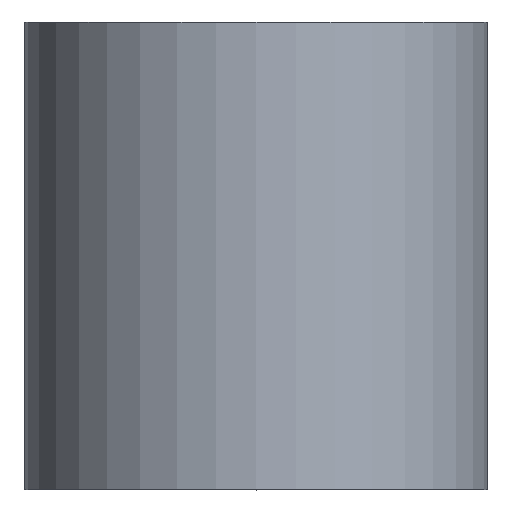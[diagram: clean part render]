
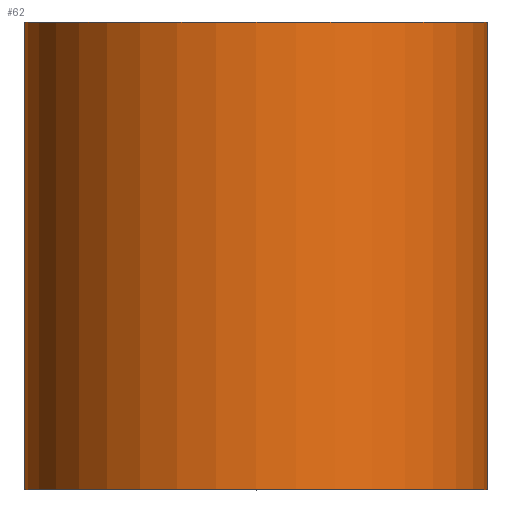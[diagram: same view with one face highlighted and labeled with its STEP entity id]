
A CAD part, top view. The second image highlights one B-rep face of the part: STEP entity #62.
In plain terms, the highlighted cylindrical face has radius 12.7 mm (diameter 25.4 mm), a full revolution.
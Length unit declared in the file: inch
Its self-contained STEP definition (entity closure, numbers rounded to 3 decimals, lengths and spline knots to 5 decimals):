
#20=FACE_OUTER_BOUND('',#24,.T.);
#24=EDGE_LOOP('',(#51,#52,#53,#54));
#30=LINE('',#118,#32);
#32=VECTOR('',#100,0.5);
#35=CIRCLE('',#83,0.5);
#36=CIRCLE('',#84,0.5);
#39=VERTEX_POINT('',#115);
#40=VERTEX_POINT('',#117);
#44=EDGE_CURVE('',#39,#39,#35,.T.);
#45=EDGE_CURVE('',#39,#40,#30,.T.);
#46=EDGE_CURVE('',#40,#40,#36,.T.);
#51=ORIENTED_EDGE('',*,*,#44,.F.);
#52=ORIENTED_EDGE('',*,*,#45,.T.);
#53=ORIENTED_EDGE('',*,*,#46,.T.);
#54=ORIENTED_EDGE('',*,*,#45,.F.);
#60=CYLINDRICAL_SURFACE('',#82,0.5);
#62=ADVANCED_FACE('',(#20),#60,.T.);
#82=AXIS2_PLACEMENT_3D('',#114,#96,#97);
#83=AXIS2_PLACEMENT_3D('',#116,#98,#99);
#84=AXIS2_PLACEMENT_3D('',#119,#101,#102);
#96=DIRECTION('center_axis',(0.,1.,0.));
#97=DIRECTION('ref_axis',(1.,0.,0.));
#98=DIRECTION('center_axis',(0.,1.,0.));
#99=DIRECTION('ref_axis',(1.,0.,0.));
#100=DIRECTION('',(0.,-1.,0.));
#101=DIRECTION('center_axis',(0.,1.,0.));
#102=DIRECTION('ref_axis',(1.,0.,0.));
#114=CARTESIAN_POINT('Origin',(0.,0.,0.));
#115=CARTESIAN_POINT('',(-0.5,1.01,0.));
#116=CARTESIAN_POINT('Origin',(0.,1.01,0.));
#117=CARTESIAN_POINT('',(-0.5,0.,0.));
#118=CARTESIAN_POINT('',(-0.5,0.,0.));
#119=CARTESIAN_POINT('Origin',(0.,0.,0.));
